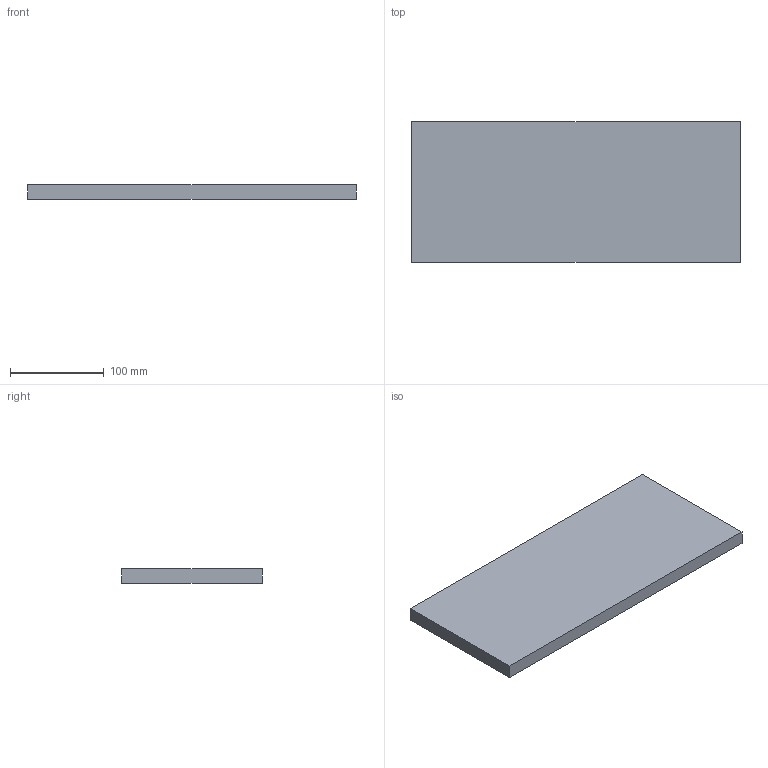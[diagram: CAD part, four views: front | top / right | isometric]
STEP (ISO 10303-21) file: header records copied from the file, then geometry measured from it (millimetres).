
FILE_DESCRIPTION (( 'STEP AP214' ), '1' );
FILE_NAME ('shelf_low.STEP', '2018-06-04T17:55:10', ( '' ), ( '' ), 'SwSTEP 2.0', 'SolidWorks 2017', '' );
FILE_SCHEMA (( 'AUTOMOTIVE_DESIGN' ));
Length unit declared in the file: millimetre
Products named in the file (1): shelf_low
Bounding box: 350 x 150 x 15 mm (x, y, z)
Volume: 787500 mm3; surface area: 120000 mm2
Topology: 1 solids, 1 shells, 6 faces, 12 edges, 8 vertices
Faces by surface type: plane 6
Entity records: 190 total; most frequent: CARTESIAN_POINT 27, DIRECTION 26, ORIENTED_EDGE 24, VECTOR 12, EDGE_CURVE 12, LINE 12, VERTEX_POINT 8, AXIS2_PLACEMENT_3D 7
